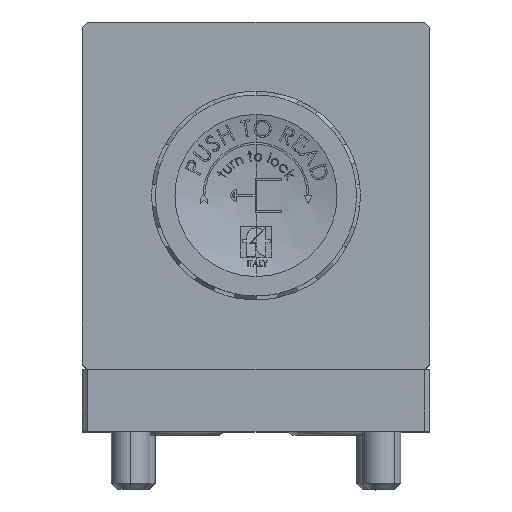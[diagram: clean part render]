
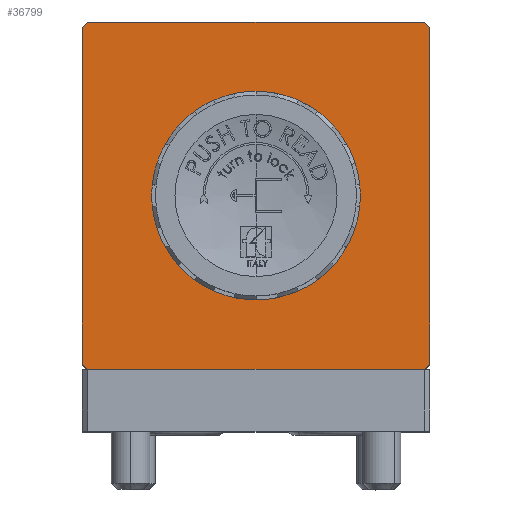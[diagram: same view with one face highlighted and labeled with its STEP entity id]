
A CAD part, top view. The second image highlights one B-rep face of the part: STEP entity #36799.
In plain terms, the highlighted planar face has unit normal (0, 0, 1).
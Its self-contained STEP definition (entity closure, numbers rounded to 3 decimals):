
#700 = VERTEX_POINT ( 'NONE', #3593 ) ;
#1298 = LINE ( 'NONE', #20873, #8375 ) ;
#1673 = LINE ( 'NONE', #40459, #12634 ) ;
#3593 = CARTESIAN_POINT ( 'NONE',  ( -21.8, 22.5, 35.75 ) ) ;
#4527 = CARTESIAN_POINT ( 'NONE',  ( -22.5, -21.8, 35.75 ) ) ;
#4707 = VERTEX_POINT ( 'NONE', #15181 ) ;
#5155 = CARTESIAN_POINT ( 'NONE',  ( 22.5, -21.8, 35.75 ) ) ;
#5968 = EDGE_LOOP ( 'NONE', ( #42135, #35448, #45454, #23031, #26625, #18464, #36275, #17217 ) ) ;
#6053 = VERTEX_POINT ( 'NONE', #4527 ) ;
#6287 = CARTESIAN_POINT ( 'NONE',  ( -22.15, -22.15, 35.75 ) ) ;
#6361 = CARTESIAN_POINT ( 'NONE',  ( 22.5, 22.5, 35.75 ) ) ;
#7277 = LINE ( 'NONE', #6361, #18311 ) ;
#8375 = VECTOR ( 'NONE', #45745, 1000. ) ;
#8991 = VERTEX_POINT ( 'NONE', #37901 ) ;
#9792 = EDGE_CURVE ( 'NONE', #29616, #34699, #7277, .T. ) ;
#10412 = VECTOR ( 'NONE', #51993, 1000. ) ;
#10448 = DIRECTION ( 'NONE',  ( 0.707, -0.707, 0. ) ) ;
#11444 = CARTESIAN_POINT ( 'NONE',  ( -22.5, -22.5, 35.75 ) ) ;
#11445 = CARTESIAN_POINT ( 'NONE',  ( 22.5, 21.8, 35.75 ) ) ;
#12473 = VECTOR ( 'NONE', #28885, 1000. ) ;
#12634 = VECTOR ( 'NONE', #19720, 1000. ) ;
#13425 = CARTESIAN_POINT ( 'NONE',  ( -44.65, -0.35, 35.75 ) ) ;
#14959 = EDGE_CURVE ( 'NONE', #48300, #700, #1298, .T. ) ;
#15181 = CARTESIAN_POINT ( 'NONE',  ( -22.5, 21.8, 35.75 ) ) ;
#17217 = ORIENTED_EDGE ( 'NONE', *, *, #49885, .T. ) ;
#17355 = CARTESIAN_POINT ( 'NONE',  ( 21.8, 22.5, 35.75 ) ) ;
#18311 = VECTOR ( 'NONE', #31213, 1000. ) ;
#18464 = ORIENTED_EDGE ( 'NONE', *, *, #50834, .T. ) ;
#19720 = DIRECTION ( 'NONE',  ( 1., 0., 0. ) ) ;
#19950 = AXIS2_PLACEMENT_3D ( 'NONE', #11444, #23969, #52915 ) ;
#20873 = CARTESIAN_POINT ( 'NONE',  ( -22.5, 22.5, 35.75 ) ) ;
#21338 = LINE ( 'NONE', #47817, #53110 ) ;
#22165 = FACE_OUTER_BOUND ( 'NONE', #5968, .T. ) ;
#23031 = ORIENTED_EDGE ( 'NONE', *, *, #26249, .T. ) ;
#23374 = CARTESIAN_POINT ( 'NONE',  ( -22.5, 22.5, 35.75 ) ) ;
#23969 = DIRECTION ( 'NONE',  ( 0., 0., 1. ) ) ;
#26249 = EDGE_CURVE ( 'NONE', #51914, #29616, #21338, .T. ) ;
#26625 = ORIENTED_EDGE ( 'NONE', *, *, #9792, .T. ) ;
#27170 = DIRECTION ( 'NONE',  ( 0.707, 0.707, 0. ) ) ;
#27908 = EDGE_CURVE ( 'NONE', #6053, #8991, #39964, .T. ) ;
#28885 = DIRECTION ( 'NONE',  ( -0.707, 0.707, 0. ) ) ;
#29616 = VERTEX_POINT ( 'NONE', #5155 ) ;
#31213 = DIRECTION ( 'NONE',  ( 0., 1., 0. ) ) ;
#34271 = DIRECTION ( 'NONE',  ( -0.707, -0.707, 0. ) ) ;
#34699 = VERTEX_POINT ( 'NONE', #11445 ) ;
#35448 = ORIENTED_EDGE ( 'NONE', *, *, #27908, .T. ) ;
#36275 = ORIENTED_EDGE ( 'NONE', *, *, #14959, .T. ) ;
#36799 = ADVANCED_FACE ( 'NONE', ( #22165 ), #48758, .T. ) ;
#37259 = EDGE_CURVE ( 'NONE', #4707, #6053, #42236, .T. ) ;
#37901 = CARTESIAN_POINT ( 'NONE',  ( -21.8, -22.5, 35.75 ) ) ;
#38625 = VECTOR ( 'NONE', #10448, 1000. ) ;
#39964 = LINE ( 'NONE', #6287, #38625 ) ;
#40459 = CARTESIAN_POINT ( 'NONE',  ( -22.5, -22.5, 35.75 ) ) ;
#41212 = EDGE_CURVE ( 'NONE', #8991, #51914, #1673, .T. ) ;
#41853 = CARTESIAN_POINT ( 'NONE',  ( 21.8, -22.5, 35.75 ) ) ;
#42135 = ORIENTED_EDGE ( 'NONE', *, *, #37259, .T. ) ;
#42236 = LINE ( 'NONE', #23374, #10412 ) ;
#43836 = VECTOR ( 'NONE', #34271, 1000. ) ;
#45114 = LINE ( 'NONE', #13425, #43836 ) ;
#45454 = ORIENTED_EDGE ( 'NONE', *, *, #41212, .T. ) ;
#45576 = LINE ( 'NONE', #49512, #12473 ) ;
#45745 = DIRECTION ( 'NONE',  ( -1., 0., 0. ) ) ;
#47817 = CARTESIAN_POINT ( 'NONE',  ( -0.35, -44.65, 35.75 ) ) ;
#48300 = VERTEX_POINT ( 'NONE', #17355 ) ;
#48758 = PLANE ( 'NONE',  #19950 ) ;
#49512 = CARTESIAN_POINT ( 'NONE',  ( 22.15, 22.15, 35.75 ) ) ;
#49885 = EDGE_CURVE ( 'NONE', #700, #4707, #45114, .T. ) ;
#50834 = EDGE_CURVE ( 'NONE', #34699, #48300, #45576, .T. ) ;
#51914 = VERTEX_POINT ( 'NONE', #41853 ) ;
#51993 = DIRECTION ( 'NONE',  ( 0., -1., 0. ) ) ;
#52915 = DIRECTION ( 'NONE',  ( 1., 0., 0. ) ) ;
#53110 = VECTOR ( 'NONE', #27170, 1000. ) ;
